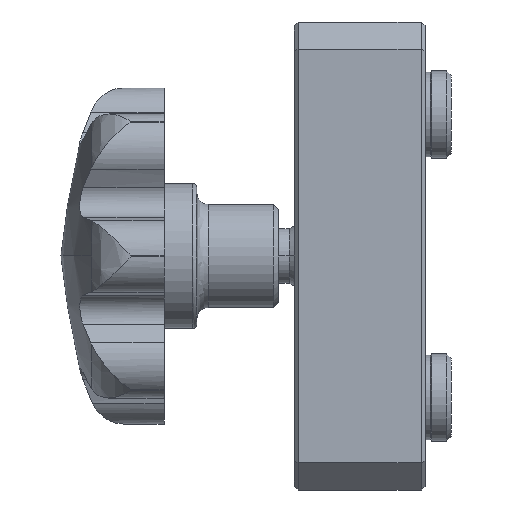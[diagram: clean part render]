
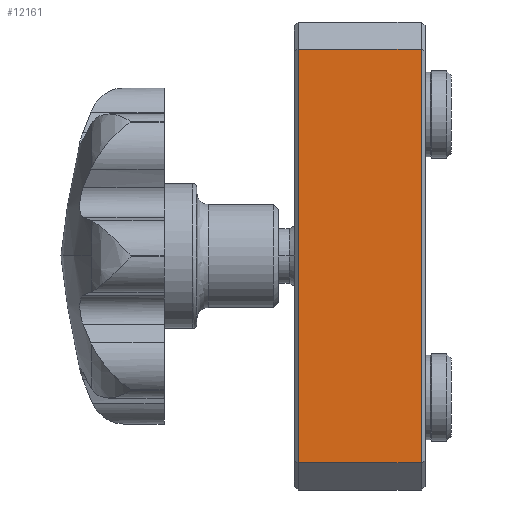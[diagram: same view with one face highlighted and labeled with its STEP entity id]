
A CAD part, left-side view. The second image highlights one B-rep face of the part: STEP entity #12161.
In plain terms, the highlighted planar face has unit normal (-1, 0, 0).
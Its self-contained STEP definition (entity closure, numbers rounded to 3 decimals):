
#343 = CARTESIAN_POINT ( 'NONE',  ( -88., 24., -38. ) ) ;
#1395 = DIRECTION ( 'NONE',  ( 0., 1., 0. ) ) ;
#1710 = VECTOR ( 'NONE', #5748, 1000. ) ;
#2301 = CARTESIAN_POINT ( 'NONE',  ( -88., 23.3, 38. ) ) ;
#2946 = EDGE_CURVE ( 'NONE', #9397, #12044, #8692, .T. ) ;
#3170 = VECTOR ( 'NONE', #4398, 1000. ) ;
#3211 = VECTOR ( 'NONE', #1395, 1000. ) ;
#3623 = CARTESIAN_POINT ( 'NONE',  ( -88., 0.7, 38. ) ) ;
#3673 = DIRECTION ( 'NONE',  ( 0., 0., -1. ) ) ;
#3700 = EDGE_CURVE ( 'NONE', #12006, #9397, #9132, .T. ) ;
#4168 = EDGE_LOOP ( 'NONE', ( #4648, #10749, #10353, #11381 ) ) ;
#4398 = DIRECTION ( 'NONE',  ( 0., 0., -1. ) ) ;
#4440 = CARTESIAN_POINT ( 'NONE',  ( -88., 0.7, -38. ) ) ;
#4567 = CARTESIAN_POINT ( 'NONE',  ( -88., 0.7, 38. ) ) ;
#4637 = DIRECTION ( 'NONE',  ( 1., 0., 0. ) ) ;
#4648 = ORIENTED_EDGE ( 'NONE', *, *, #8582, .T. ) ;
#4819 = CARTESIAN_POINT ( 'NONE',  ( -88., 23.3, -38. ) ) ;
#5748 = DIRECTION ( 'NONE',  ( 0., 0., 1. ) ) ;
#5800 = PLANE ( 'NONE',  #8565 ) ;
#7654 = LINE ( 'NONE', #343, #7795 ) ;
#7719 = DIRECTION ( 'NONE',  ( 0., -1., 0. ) ) ;
#7795 = VECTOR ( 'NONE', #7719, 1000. ) ;
#8460 = LINE ( 'NONE', #11914, #3170 ) ;
#8565 = AXIS2_PLACEMENT_3D ( 'NONE', #8708, #4637, #3673 ) ;
#8582 = EDGE_CURVE ( 'NONE', #9892, #12006, #7654, .T. ) ;
#8692 = LINE ( 'NONE', #10757, #3211 ) ;
#8708 = CARTESIAN_POINT ( 'NONE',  ( -88., 24., 43. ) ) ;
#9132 = LINE ( 'NONE', #3623, #1710 ) ;
#9397 = VERTEX_POINT ( 'NONE', #4567 ) ;
#9892 = VERTEX_POINT ( 'NONE', #4819 ) ;
#10013 = EDGE_CURVE ( 'NONE', #12044, #9892, #8460, .T. ) ;
#10353 = ORIENTED_EDGE ( 'NONE', *, *, #2946, .T. ) ;
#10749 = ORIENTED_EDGE ( 'NONE', *, *, #3700, .T. ) ;
#10757 = CARTESIAN_POINT ( 'NONE',  ( -88., 24., 38. ) ) ;
#11381 = ORIENTED_EDGE ( 'NONE', *, *, #10013, .T. ) ;
#11887 = FACE_OUTER_BOUND ( 'NONE', #4168, .T. ) ;
#11914 = CARTESIAN_POINT ( 'NONE',  ( -88., 23.3, 37.71 ) ) ;
#12006 = VERTEX_POINT ( 'NONE', #4440 ) ;
#12044 = VERTEX_POINT ( 'NONE', #2301 ) ;
#12161 = ADVANCED_FACE ( 'NONE', ( #11887 ), #5800, .F. ) ;
